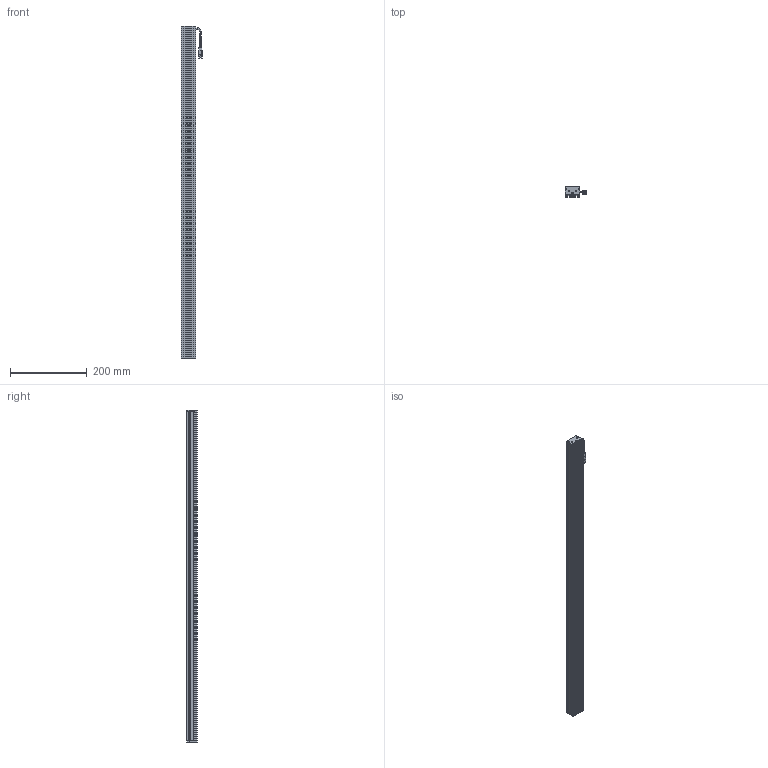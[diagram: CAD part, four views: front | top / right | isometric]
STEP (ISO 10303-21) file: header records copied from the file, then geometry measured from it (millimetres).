
FILE_DESCRIPTION (( 'STEP AP203' ), '1' );
FILE_NAME ('CK-BL86738.STEP', '2026-01-29T07:36:56', ( '' ), ( '' ), 'SwSTEP 2.0', 'SolidWorks 2022', '' );
FILE_SCHEMA (( 'CONFIG_CONTROL_DESIGN' ));
Length unit declared in the file: millimetre
Products named in the file (6): CK-BL86738; 十字沉头螺丝 M2x10; 光源线; CK86738-001A; CK-BL86738-003A; CK-BL86738-002A
Assembly tree (11 placements, depth 2):
  CK-BL86738
    CK86738-001A
    CK-BL86738-002A  x2
    CK-BL86738-003A
    光源线
    十字沉头螺丝 M2x10  x6
Bounding box: 55.84 x 27 x 867 mm (x, y, z)
Volume: 350012.5 mm3; surface area: 301610.3 mm2
Topology: 13 solids, 13 shells, 641 faces, 1692 edges, 1082 vertices
Faces by surface type: plane 353, cylinder 210, cone 46, bspline 32
Entity records: 16373 total; most frequent: CARTESIAN_POINT 3399, ORIENTED_EDGE 2598, DIRECTION 2515, EDGE_CURVE 1299, VECTOR 875, LINE 875, VERTEX_POINT 846, AXIS2_PLACEMENT_3D 820
